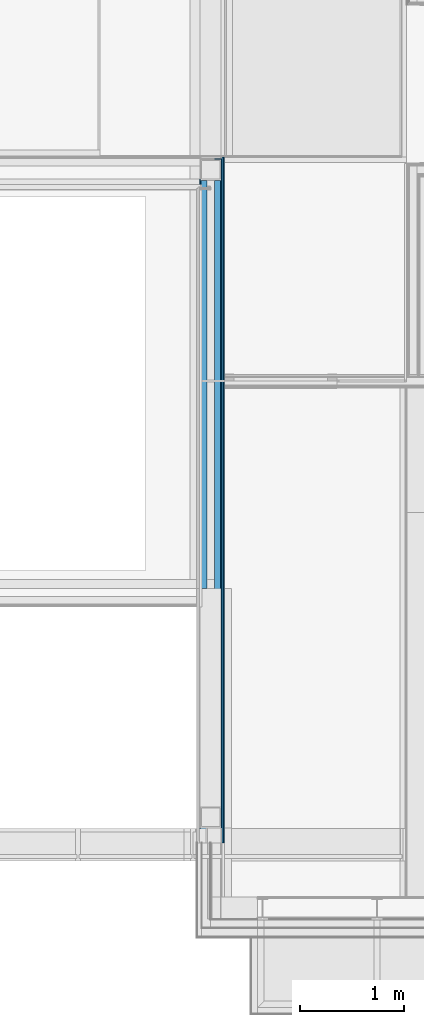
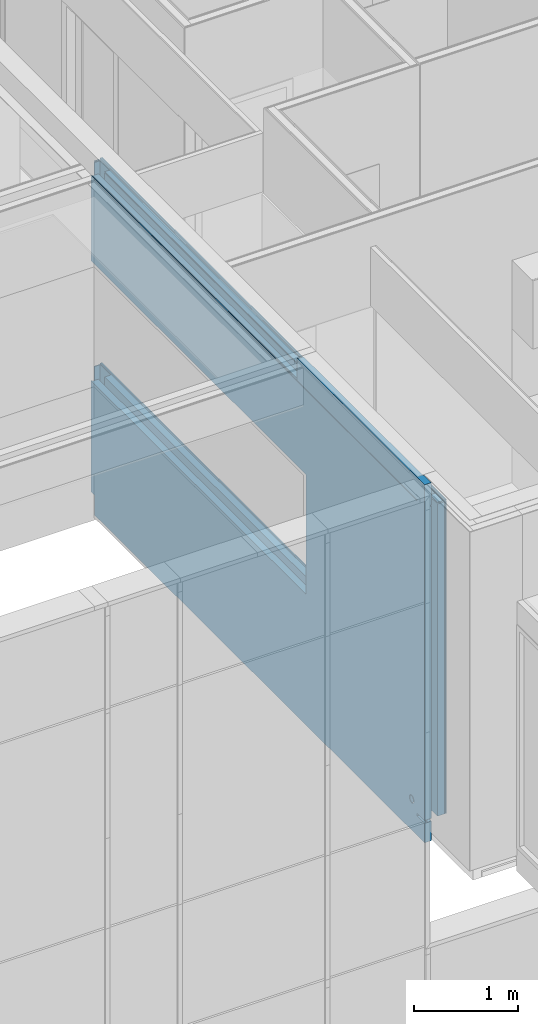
# One storey, part 66 of 137: 4 building element parts, 1 opening, 1 element without a shape of its own.
"""IFC2X3 building model written with IfcOpenShell, lengths in millimetres."""

from ifc_helpers import new_model, entity, si_unit, converted_unit, derived_unit, money_unit, direction, frame, origin_with_axes, place, context, subcontext, project, spatial, faceted_brep, material, type_object, element, aggregate, save


model = new_model("IFC2X3")

# Units and contexts
model_context = context("Model", 3, precision=0.01, world=origin_with_axes(), true_north=direction((0.0, 1.0)))
body_context = subcontext(model_context, "Body", "Model", "MODEL_VIEW")
ifc_project = project(units=[si_unit("LENGTHUNIT", "METRE", prefix="MILLI"), si_unit("AREAUNIT", "SQUARE_METRE"), si_unit("VOLUMEUNIT", "CUBIC_METRE"), converted_unit("PLANEANGLEUNIT", "DEGREE", entity("IfcPlaneAngleMeasure", 0.0174532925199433), si_unit("PLANEANGLEUNIT", "RADIAN"), dimensions=[0, 0, 0, 0, 0, 0, 0]), money_unit("EUR"), converted_unit("TIMEUNIT", "Year", entity("IfcTimeMeasure", 31556926.0), si_unit("TIMEUNIT", "SECOND"), dimensions=[0, 0, 1, 0, 0, 0, 0]), si_unit("MASSUNIT", "GRAM", prefix="KILO"), si_unit("THERMODYNAMICTEMPERATUREUNIT", "DEGREE_CELSIUS"), si_unit("LUMINOUSINTENSITYUNIT", "LUMEN"), si_unit("ENERGYUNIT", "JOULE", prefix="MEGA"), derived_unit("THERMALCONDUCTANCEUNIT", [(si_unit("POWERUNIT", "WATT"), 1), (si_unit("LENGTHUNIT", "METRE"), -1), (si_unit("THERMODYNAMICTEMPERATUREUNIT", "KELVIN"), -1)]), derived_unit("SPECIFICHEATCAPACITYUNIT", [(si_unit("ENERGYUNIT", "JOULE"), 1), (si_unit("MASSUNIT", "GRAM", prefix="KILO"), -1), (si_unit("THERMODYNAMICTEMPERATUREUNIT", "KELVIN"), -1)]), derived_unit("MASSDENSITYUNIT", [(si_unit("MASSUNIT", "GRAM", prefix="KILO"), 1), (si_unit("VOLUMEUNIT", "CUBIC_METRE"), -1)])], contexts=[model_context])

# Site, building, storey
site_placement = place(None, origin_with_axes())
site = spatial("IfcSite", under=ifc_project, at=site_placement, Name="Site", CompositionType="ELEMENT")
building_placement = place(site_placement, origin_with_axes())
building = spatial("IfcBuilding", under=site, at=building_placement, Name="Naam gebouw", CompositionType="ELEMENT")
storey_placement = place(building_placement, frame((0.0, 0.0, 3960.0), z_axis=(0.0, 0.0, 1.0), x_axis=(1.0, 0.0, 0.0)))
storey = spatial("IfcBuildingStorey", under=building, at=storey_placement, Name="1e verdieping", CompositionType="ELEMENT", Elevation=3960.0)

# Proxy, opening, building element parts
building_element_proxy_type = type_object("IfcBuildingElementProxyType", Name="22 Metal stud 270 270", PredefinedType="NOTDEFINED")
proxy_placement = place(storey_placement, frame((24499.99903999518, 4334.757636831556, -330.0000000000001), z_axis=(0.0, 0.0, 1.0), x_axis=(0.0, 1.0, 0.0)))
proxy = element("IfcBuildingElementProxy", 1, at=proxy_placement, inside=storey, type_object=building_element_proxy_type, Name="_Wand-x")
opening_placement = place(proxy_placement, frame((4277.742418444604, 0.0, 1530.0), z_axis=(0.0, 0.0, 1.0), x_axis=(1.0, 0.0, 0.0)))
element("IfcOpeningElement", 2, at=opening_placement, cuts=proxy, Name="_A.01b", context=body_context, shape_type="Brep", body=[
    faceted_brep([(-2007.500055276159, -136.0000000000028, 1400.0), (-2007.500055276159, -136.0000000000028, 0.0), (2332.50005527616, -136.0000000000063, 0.0), (2332.50005527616, -136.0000000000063, 1400.0), (-2007.500055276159, 136.0000000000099, 1400.0), (-2007.500055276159, 136.0000000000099, 0.0), (2006.296351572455, 136.0000000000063, 0.0), (2332.50005527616, -134.999999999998, 0.0), (2332.50005527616, -134.999999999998, 1400.0), (2006.296351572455, 136.0000000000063, 1400.0)], [[[0, 1, 2, 3]], [[4, 5, 1, 0]], [[5, 6, 7, 2, 1]], [[8, 3, 2, 7]], [[9, 4, 0, 3, 8]], [[6, 5, 4, 9]], [[7, 6, 9, 8]]]),
])
ifc_material_1 = material(Name="ALG - LICHTE SCHEIDINGSWAND")
building_element_part_1_placement = place(proxy_placement, origin_with_axes())
building_element_part_1 = element("IfcBuildingElementPart", 3, at=building_element_part_1_placement, material=ifc_material_1, Name="ALG - LICHTE SCHEIDINGSWAND", context=body_context, shape_type="Brep", body=[
    faceted_brep([(2270.242363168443, 35.00000044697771, 1530.0), (2270.242363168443, 35.00000044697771, 2930.0), (6375.242473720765, 35.0000003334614, 2930.0), (6375.242473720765, 35.0000004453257, 3915.000029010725), (345.2423631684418, 35.00000044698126, 3915.000000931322), (345.2423631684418, 35.0000004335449, 230.0), (6375.242473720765, 35.00000002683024, 230.0), (6375.242473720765, 35.00000017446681, 1530.0), (2270.242363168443, 109.9999999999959, 1530.0), (2270.242363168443, 109.9999999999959, 2930.0), (6375.242473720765, 60.23076923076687, 2930.0), (6315.335066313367, 109.9999999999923, 2930.0), (6375.242473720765, 99.99999999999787, 2930.0), (6375.242473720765, 99.99999999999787, 3914.999999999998), (145.2423631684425, 109.9999999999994, 3914.999999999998), (145.2423631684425, 100.0002687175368, 3914.999999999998), (345.2423631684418, 100.0002687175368, 3914.999999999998), (6385.242473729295, 99.99999999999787, 3915.000029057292), (6385.242473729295, 109.9999999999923, 3915.000029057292), (345.2423631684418, 100.0002687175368, 230.0), (145.2423631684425, 100.0002687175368, 230.0), (145.2423701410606, 100.9999999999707, 230.0), (6321.24247372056, 100.9999999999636, 230.0), (6321.24247372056, 109.9999999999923, 229.9999999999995), (6385.242475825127, 109.9999999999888, 229.9999999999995), (6385.242475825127, 99.99999999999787, 230.0), (6375.242473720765, 99.99999999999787, 230.0), (6375.242473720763, 60.23076923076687, 1530.0), (6375.242473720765, 99.99999999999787, 1530.0), (6315.335066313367, 109.9999999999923, 1530.0), (6385.242475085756, 109.9999999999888, 1530.0), (6321.242473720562, 109.9999999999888, 0.0), (0.0, 109.9999999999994, 0.0), (0.0, 109.9999999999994, 230.0), (140.2423631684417, 109.9999999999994, 230.0), (140.2423631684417, 109.9999999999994, 260.0000000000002), (0.0, 109.9999999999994, 259.9999978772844), (0.0, 109.9999999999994, 4185.000048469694), (2445.242363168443, 109.9999999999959, 4185.000047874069), (2445.242363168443, 109.9999999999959, 3930.0), (6285.242473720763, 109.9999999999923, 3930.0), (6385.242473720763, 109.9999999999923, 3930.0), (6385.242473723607, 109.9999999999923, 3925.000029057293), (145.2423631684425, 109.9999999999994, 3924.999999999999), (6385.24247428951, 109.9999999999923, 2930.0), (305.8776321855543, 109.9999999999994, 382.010269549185), (300.622112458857, 109.9999999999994, 389.7649872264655), (300.622112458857, 109.9999999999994, 340.2349947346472), (305.8776321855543, 109.9999999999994, 347.9897124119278), (309.309498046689, 109.9999999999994, 364.9999909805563), (245.2423631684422, 109.9999999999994, 320.5499909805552), (262.2526417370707, 109.9999999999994, 323.9335457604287), (276.6732595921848, 109.9999999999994, 333.5690945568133), (286.3088083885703, 109.9999999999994, 347.9897124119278), (289.6923631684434, 109.9999999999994, 364.9999909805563), (286.3088083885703, 109.9999999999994, 382.010269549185), (276.6732595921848, 109.9999999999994, 396.430887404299), (262.2526417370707, 109.9999999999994, 406.0664362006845), (245.2423631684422, 109.9999999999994, 409.4499909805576), (228.2320845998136, 109.9999999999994, 406.0664362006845), (213.8114667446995, 109.9999999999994, 396.430887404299), (204.175917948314, 109.9999999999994, 382.010269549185), (200.7923631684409, 109.9999999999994, 364.9999909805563), (204.175917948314, 109.9999999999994, 347.9897124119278), (213.8114667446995, 109.9999999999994, 333.5690945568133), (228.2320845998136, 109.9999999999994, 323.9335457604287), (6385.24247428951, 99.99999999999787, 2930.0), (145.2423631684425, 101.0000000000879, 3924.999999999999), (145.2423631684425, 101.0000000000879, 4185.000047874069), (145.2423631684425, 35.00000001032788, 4185.000048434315), (145.2423631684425, 35.00000044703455, 4174.999999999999), (145.2423631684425, 95.00000000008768, 4174.999999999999), (145.2423631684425, 95.00000000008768, 3929.999999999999), (145.2423631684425, 35.00000000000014, 3929.999999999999), (145.2423631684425, 35.00000001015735, 3925.000000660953), (145.2423631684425, 46.00000834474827, 3924.999999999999), (145.2423631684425, 46.00000834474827, 3910.000001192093), (145.2423631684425, 35.00000044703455, 3910.000001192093), (145.2423701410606, 35.00000044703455, 200.0000000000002), (145.2423701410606, 94.99999999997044, 199.9999999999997), (145.2423701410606, 94.99999999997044, 0.0), (145.2423701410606, 100.9999999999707, 0.0), (276.6732595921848, 100.0002687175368, 396.430887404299), (286.3088083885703, 100.0002687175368, 382.010269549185), (289.6923631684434, 100.0002687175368, 364.9999909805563), (286.3088083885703, 100.0002687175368, 347.9897124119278), (276.6732595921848, 100.0002687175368, 333.5690945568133), (262.2526417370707, 100.0002687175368, 323.9335457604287), (245.2423631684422, 100.0002687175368, 320.5499909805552), (228.2320845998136, 100.0002687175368, 323.9335457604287), (213.8114667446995, 100.0002687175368, 333.5690945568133), (204.175917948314, 100.0002687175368, 347.9897124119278), (200.7923631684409, 100.0002687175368, 364.9999909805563), (204.175917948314, 100.0002687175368, 382.010269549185), (213.8114667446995, 100.0002687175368, 396.430887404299), (228.2320845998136, 100.0002687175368, 406.0664362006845), (245.2423631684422, 100.0002687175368, 409.4499909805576), (262.2526417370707, 100.0002687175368, 406.0664362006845), (6321.242473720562, 100.9999999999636, 0.0), (6385.242475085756, 99.99999999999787, 1530.0), (6321.242473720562, 94.99999999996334, 0.0), (6321.242473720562, 34.99999999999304, 0.0), (0.0, 35.00000000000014, 0.0), (0.0, 35.00000000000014, 3910.000001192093), (0.0, 46.00000834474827, 3910.000001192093), (0.0, 46.00000834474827, 3924.999999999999), (0.0, 35.00000000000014, 3924.999999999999), (0.0, 35.00000000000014, 4185.000048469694), (0.0, 88.00000000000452, 259.9999997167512), (0.0, 88.00000000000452, 230.0), (0.0, 35.00000000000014, 230.0), (0.0, 84.00000000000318, 230.0), (0.0, 84.00000000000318, 259.9999997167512), (0.0, 35.00000000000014, 259.9999978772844), (140.2423631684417, 88.00000000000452, 230.0), (140.2423631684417, 88.00000000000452, 260.0000000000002), (2445.242363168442, 101.0000000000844, 4185.000047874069), (2445.242363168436, 100.9999999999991, 3929.999999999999), (6285.242473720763, 100.9999999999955, 3930.0), (6385.242473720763, 100.9999999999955, 3930.0), (6385.242475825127, 100.9999999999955, 3925.000029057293), (305.7307075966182, 109.1336408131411, 382.010269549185), (309.0666313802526, 108.5679063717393, 364.9999909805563), (305.7307075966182, 109.1336408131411, 347.9897124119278), (345.2423631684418, 35.00000000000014, 3929.999999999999), (345.2423631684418, 35.00000002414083, 3925.000001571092), (6375.242473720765, 35.00000044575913, 3925.000029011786), (6375.242473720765, 35.00000044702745, 3929.999999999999), (6285.242473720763, 35.00000044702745, 3930.0), (2445.242363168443, 35.000000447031, 3930.0), (2445.242363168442, 35.00000018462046, 4174.999999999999), (2445.242363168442, 95.00000000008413, 4174.999999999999), (345.2423631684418, 95.00000000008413, 3925.000000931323), (345.2423631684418, 95.00000000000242, 3929.999999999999), (2445.242363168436, 94.99999999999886, 3929.999999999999), (6285.242473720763, 94.99999999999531, 3930.0), (6375.242473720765, 94.99999999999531, 3929.999999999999), (6375.242473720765, 94.99999999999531, 3925.000029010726), (140.2423631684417, 35.00000044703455, 260.0000000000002), (140.2423631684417, 35.00000044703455, 230.0), (6321.24247372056, 35.00000038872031, 200.0000000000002), (6321.24247372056, 94.99999999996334, 199.9999999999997), (140.2423631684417, 84.00000000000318, 230.0), (140.2423631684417, 84.00000000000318, 260.0000000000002)], [[[0, 1, 2, 3, 4, 5, 6, 7]], [[1, 0, 8, 9]], [[10, 2, 1, 9, 11]], [[2, 10, 12, 13, 3]], [[14, 15, 16, 4, 3, 13, 17, 18]], [[19, 5, 4, 16]], [[5, 19, 20, 21, 22, 23, 24, 25, 26, 6]], [[27, 7, 6, 26, 28]], [[0, 7, 27, 29, 8]], [[8, 29, 30, 24, 23, 31, 32, 33, 34, 35, 36, 37, 38, 39, 40, 41, 42, 43, 14, 18, 44, 11, 9], [45, 46, 47, 48, 49], [50, 51, 52, 53, 54, 55, 56, 57, 58, 59, 60, 61, 62, 63, 64, 65]], [[10, 11, 44, 66, 12]], [[12, 66, 17, 13]], [[21, 20, 15, 14, 43, 67, 68, 69, 70, 71, 72, 73, 74, 75, 76, 77, 78, 79, 80, 81]], [[19, 16, 15, 20], [82, 83, 84, 85, 86, 87, 88, 89, 90, 91, 92, 93, 94, 95, 96, 97]], [[66, 44, 18, 17]], [[21, 81, 98, 22]], [[31, 23, 22, 98]], [[30, 99, 25, 24]], [[99, 28, 26, 25]], [[29, 27, 28, 99, 30]], [[98, 81, 80, 100, 101, 102, 32, 31]], [[103, 104, 105, 106, 107, 37, 36, 108, 109, 33, 32, 102, 110, 111, 112, 113]], [[33, 109, 114, 34]], [[35, 34, 114, 115]], [[108, 36, 35, 115]], [[107, 69, 68, 116, 38, 37]], [[39, 38, 116, 117]], [[39, 117, 118, 40]], [[41, 40, 118, 119]], [[41, 119, 120, 42]], [[67, 43, 42, 120]], [[45, 121, 46]], [[122, 123, 47, 46, 121]], [[47, 123, 48]], [[123, 122, 49, 48]], [[122, 121, 45, 49]], [[50, 88, 87, 51]], [[51, 87, 86, 52]], [[52, 86, 85, 53]], [[53, 85, 84, 54]], [[54, 84, 83, 55]], [[55, 83, 82, 56]], [[56, 82, 97, 57]], [[57, 97, 96, 58]], [[58, 96, 95, 59]], [[59, 95, 94, 60]], [[60, 94, 93, 61]], [[61, 93, 92, 62]], [[62, 92, 91, 63]], [[63, 91, 90, 64]], [[64, 90, 89, 65]], [[65, 89, 88, 50]], [[68, 67, 120, 119, 118, 117, 116]], [[73, 124, 125, 126, 127, 128, 129, 130, 70, 69, 107, 106, 74]], [[131, 71, 70, 130]], [[132, 133, 72, 71, 131, 134, 135, 136, 137]], [[73, 72, 133, 124]], [[105, 75, 74, 106]], [[104, 76, 75, 105]], [[103, 77, 76, 104]], [[78, 77, 103, 113, 138, 139, 110, 102, 101, 140]], [[141, 79, 78, 140]], [[80, 79, 141, 100]], [[101, 100, 141, 140]], [[109, 108, 115, 114]], [[110, 139, 142, 111]], [[112, 111, 142, 143]], [[138, 113, 112, 143]], [[132, 125, 124, 133]], [[126, 125, 132, 137]], [[137, 136, 127, 126]], [[128, 127, 136, 135]], [[128, 135, 134, 129]], [[130, 129, 134, 131]], [[139, 138, 143, 142]]]),
    faceted_brep([(273.7401207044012, 100.0002687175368, 387.726194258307), (280.7784855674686, 100.0002687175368, 373.1108790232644), (280.7784855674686, 109.9999999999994, 373.1108790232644), (273.7401207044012, 109.9999999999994, 387.726194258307), (280.7784855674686, 100.0002687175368, 356.8891029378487), (261.0574254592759, 100.0002687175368, 397.8403062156), (245.2423631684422, 100.0002687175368, 401.4499909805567), (229.4273008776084, 100.0002687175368, 397.8403062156), (216.7446056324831, 100.0002687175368, 387.726194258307), (209.7062407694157, 100.0002687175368, 373.1108790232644), (209.7062407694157, 100.0002687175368, 356.8891029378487), (216.7446056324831, 100.0002687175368, 342.2737877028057), (229.4273008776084, 100.0002687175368, 332.1596757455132), (245.2423631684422, 100.0002687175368, 328.5499909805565), (261.0574254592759, 100.0002687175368, 332.1596757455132), (273.7401207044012, 100.0002687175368, 342.2737877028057), (280.7784855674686, 109.9999999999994, 356.8891029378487), (245.2423631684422, 109.9999999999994, 401.4499909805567), (261.0574254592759, 109.9999999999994, 397.8403062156), (273.7401207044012, 109.9999999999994, 342.2737877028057), (261.0574254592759, 109.9999999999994, 332.1596757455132), (245.2423631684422, 109.9999999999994, 328.5499909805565), (229.4273008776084, 109.9999999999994, 332.1596757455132), (216.7446056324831, 109.9999999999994, 342.2737877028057), (209.7062407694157, 109.9999999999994, 356.8891029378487), (209.7062407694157, 109.9999999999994, 373.1108790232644), (216.7446056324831, 109.9999999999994, 387.726194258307), (229.4273008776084, 109.9999999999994, 397.8403062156)], [[[0, 1, 2, 3]], [[4, 1, 0, 5, 6, 7, 8, 9, 10, 11, 12, 13, 14, 15]], [[1, 4, 16, 2]], [[17, 18, 3, 2, 16, 19, 20, 21, 22, 23, 24, 25, 26, 27]], [[5, 0, 3, 18]], [[6, 5, 18, 17]], [[7, 6, 17, 27]], [[8, 7, 27, 26]], [[9, 8, 26, 25]], [[10, 9, 25, 24]], [[11, 10, 24, 23]], [[12, 11, 23, 22]], [[13, 12, 22, 21]], [[14, 13, 21, 20]], [[15, 14, 20, 19]], [[4, 15, 19, 16]]]),
])
building_element_part_2_placement = place(proxy_placement, origin_with_axes())
building_element_part_2 = element("IfcBuildingElementPart", 4, at=building_element_part_2_placement, material=ifc_material_1, Name="ALG - LICHTE SCHEIDINGSWAND", context=body_context, shape_type="Brep", body=[
    faceted_brep([(2270.242363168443, -110.000000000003, 1530.0), (2270.242363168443, -110.000000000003, 2930.0), (6580.149881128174, -110.0000000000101, 2930.0), (6585.242473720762, -110.0000000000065, 2930.0), (6585.242473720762, -110.0000000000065, 3915.000029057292), (145.2423631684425, -109.9999999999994, 3914.999999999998), (145.2423631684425, -109.9999999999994, 3910.000001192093), (0.0, -109.9999999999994, 3910.000001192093), (0.0, -109.9999999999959, 259.9999997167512), (140.2423631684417, -109.9999999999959, 260.0000000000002), (140.2423631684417, -109.9999999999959, 229.9999999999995), (6585.242473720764, -110.0000000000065, 229.9999999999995), (6585.242473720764, -110.0000000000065, 1530.0), (6580.149881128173, -110.0000000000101, 1530.0), (2270.242363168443, -35.00000043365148, 1530.0), (2270.242363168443, -35.00000043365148, 2930.0), (6568.112844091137, -100.0000000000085, 2930.0), (6375.242473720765, -35.0000003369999, 2930.0), (6375.242473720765, -100.000000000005, 2930.0), (6575.242473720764, -100.000000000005, 2930.0), (6575.242473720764, -35.00000033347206, 2930.0), (6585.242473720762, -35.00000033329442, 2930.0), (6585.242473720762, -35.00000044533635, 3915.000029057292), (345.2423631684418, -35.00000044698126, 3915.000000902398), (345.2423631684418, -99.99973128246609, 3914.999999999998), (145.2423631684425, -99.99973128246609, 3914.999999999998), (6575.242473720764, -35.00000044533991, 3915.000029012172), (6575.242473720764, -100.000000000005, 3914.999999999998), (6375.242473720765, -100.000000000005, 3914.999999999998), (6375.242473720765, -35.0000004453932, 3915.000028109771), (145.2423631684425, -99.99973128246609, 3910.000001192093), (145.2423631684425, -35.00000044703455, 3910.000001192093), (0.0, -35.00000000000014, 3910.000001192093), (0.0, -35.00000000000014, 259.9999978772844), (140.2423631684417, -35.00000044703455, 260.0000000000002), (140.2423631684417, -35.00000044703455, 229.9999999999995), (145.2423631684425, -99.99973128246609, 230.0), (345.2423631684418, -99.99973128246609, 230.0), (345.2423631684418, -35.00000043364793, 230.0), (6375.242473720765, -35.00000003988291, 230.0), (6375.242473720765, -100.000000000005, 230.0), (6575.242473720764, -100.000000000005, 230.0), (6575.242473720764, -35.00000002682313, 230.0), (6585.242473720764, -35.00000002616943, 229.9999999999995), (145.2423631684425, -35.0000004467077, 230.0), (6585.242473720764, -35.00000017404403, 1530.0), (6568.112844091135, -100.0000000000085, 1530.0), (6575.242473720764, -35.00000017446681, 1530.0), (6575.242473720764, -100.000000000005, 1530.0), (6375.242473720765, -100.000000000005, 1530.0), (6375.242473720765, -35.00000018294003, 1530.0)], [[[0, 1, 2, 3, 4, 5, 6, 7, 8, 9, 10, 11, 12, 13]], [[1, 0, 14, 15]], [[16, 2, 1, 15, 17, 18]], [[2, 16, 19, 20, 21, 3]], [[3, 21, 22, 4]], [[23, 24, 25, 5, 4, 22, 26, 27, 28, 29]], [[5, 25, 30, 6]], [[6, 30, 31, 32, 7]], [[33, 8, 7, 32]], [[9, 8, 33, 34]], [[10, 9, 34, 35]], [[36, 37, 38, 39, 40, 41, 42, 43, 11, 10, 35, 44]], [[45, 12, 11, 43]], [[46, 13, 12, 45, 47, 48]], [[0, 13, 46, 49, 50, 14]], [[14, 50, 39, 38, 23, 29, 17, 15]], [[18, 17, 29, 28]], [[16, 18, 28, 27, 19]], [[20, 19, 27, 26]], [[21, 20, 26, 22]], [[37, 24, 23, 38]], [[30, 25, 24, 37, 36]], [[44, 31, 30, 36]], [[32, 31, 44, 35, 34, 33]], [[50, 49, 40, 39]], [[49, 46, 48, 41, 40]], [[48, 47, 42, 41]], [[47, 45, 43, 42]]]),
    faceted_brep([(6575.242473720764, -35.00000044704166, 3929.999999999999), (6575.242473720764, -95.00000000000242, 3929.999999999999), (6585.242473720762, -95.00000000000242, 3930.0), (6585.242473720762, -35.00000044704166, 3930.0), (6575.242473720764, -94.99999998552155, 3925.000029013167), (6575.242473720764, -35.00000044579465, 3925.000029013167), (6585.242473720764, -95.00000000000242, 3925.000029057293), (6585.242473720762, -35.00000044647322, 3925.000029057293)], [[[0, 1, 2, 3]], [[4, 1, 0, 5]], [[1, 4, 6, 2]], [[2, 6, 7, 3]], [[5, 0, 3, 7]], [[4, 5, 7, 6]]]),
    faceted_brep([(145.2423631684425, -94.99999067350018, 3925.000000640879), (145.2423631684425, -94.99999068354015, 3929.999999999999), (0.0, -94.99999046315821, 3930.0), (0.0, -94.99999046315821, 3924.999999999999), (145.2423631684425, -35.00000001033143, 3929.999999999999), (145.2423631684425, -35.00000000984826, 3925.000000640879), (0.0, -35.00000000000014, 3930.0), (0.0, -35.00000000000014, 3924.999999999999)], [[[0, 1, 2, 3]], [[4, 1, 0, 5]], [[1, 4, 6, 2]], [[7, 3, 2, 6]], [[5, 0, 3, 7]], [[4, 5, 7, 6]]]),
    faceted_brep([(345.2423631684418, -35.0000000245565, 3929.999999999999), (345.2423631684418, -94.99999098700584, 3929.999999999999), (6285.242473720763, -95.00000000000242, 3930.0), (6285.242473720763, -35.00000044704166, 3930.0), (345.2423631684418, -94.99999096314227, 3925.000001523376), (345.2423631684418, -35.00000002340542, 3925.000001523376), (6375.242473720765, -94.99999969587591, 3925.00002813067), (6375.242473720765, -95.00000000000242, 3929.999999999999), (6375.242473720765, -35.00000044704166, 3929.999999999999), (6375.242473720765, -35.00000043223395, 3925.00002813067)], [[[0, 1, 2, 3]], [[4, 1, 0, 5]], [[1, 4, 6, 7, 2]], [[7, 8, 3, 2]], [[5, 0, 3, 8, 9]], [[4, 5, 9, 6]], [[8, 7, 6, 9]]]),
    faceted_brep([(0.0, -109.9999999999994, 3924.999999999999), (145.2423631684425, -109.9999999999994, 3924.999999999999), (2445.242363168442, -110.000000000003, 3925.000029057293), (6585.242473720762, -110.0000000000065, 3925.000029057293), (6585.242473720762, -110.0000000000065, 3930.0), (6285.242473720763, -110.0000000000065, 3930.0), (0.0, -109.9999999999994, 3930.0), (145.2423631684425, -100.9999999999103, 3924.999999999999), (0.0, -100.9999999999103, 3924.999999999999), (2445.242363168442, -100.9999999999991, 3925.000029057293), (6585.242473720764, -101.0000000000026, 3925.000029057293), (6585.242473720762, -100.9999966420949, 3930.0), (6285.242473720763, -100.9999966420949, 3930.0), (145.2423631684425, -100.9999999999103, 3930.0), (0.0, -100.9999999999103, 3930.0), (2535.24236316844, -100.9999966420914, 3929.999999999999), (2445.242363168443, -100.9999966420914, 3929.999999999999)], [[[0, 1, 2, 3, 4, 5, 6]], [[7, 1, 0, 8]], [[1, 7, 9, 2]], [[10, 3, 2, 9]], [[10, 11, 4, 3]], [[11, 12, 5, 4]], [[13, 14, 6, 5, 12, 15, 16]], [[8, 0, 6, 14]], [[14, 13, 7, 8]], [[7, 13, 16, 9]], [[12, 11, 10, 9, 16, 15]]]),
])
ifc_material_2 = material(Name="Gipsplaat")
building_element_part_3_placement = place(proxy_placement, origin_with_axes())
building_element_part_3 = element("IfcBuildingElementPart", 5, at=building_element_part_3_placement, material=ifc_material_2, Name="Gipsplaat", context=body_context, shape_type="Brep", body=[
    faceted_brep([(2270.242363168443, -135.0000000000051, 1530.0), (2270.242363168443, -135.0000000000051, 2930.0), (6597.742473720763, -135.0000000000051, 2930.0), (6597.742473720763, -135.0000000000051, 3915.000029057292), (145.2423631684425, -135.0000000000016, 3914.999999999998), (145.2423631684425, -135.0000000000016, 3910.000001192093), (0.0, -134.999999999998, 3910.000001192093), (0.0, -134.999999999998, 259.9999997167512), (140.2423631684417, -134.999999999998, 260.0000000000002), (140.2423631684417, -134.999999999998, 229.9999999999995), (6597.742473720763, -135.0000000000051, 229.9999999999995), (6597.742473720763, -135.0000000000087, 1530.0), (2270.242363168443, -122.5000000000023, 1530.0), (2270.242363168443, -122.5000000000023, 2930.0), (6597.742473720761, -124.6153846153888, 2930.0), (6595.19617742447, -122.5000000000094, 2930.0), (6597.742473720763, -122.5000000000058, 2930.0), (6597.742473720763, -122.5000000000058, 3915.000029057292), (145.2423631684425, -122.4999999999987, 3914.999999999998), (145.2423631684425, -122.4999999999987, 3910.000001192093), (0.0, -122.4999999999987, 3910.000001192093), (0.0, -122.4999999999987, 259.9999978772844), (140.2423631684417, -122.4999999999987, 260.0000000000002), (140.2423631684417, -122.4999999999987, 229.9999999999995), (6597.742473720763, -122.5000000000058, 229.9999999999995), (6597.742473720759, -124.6153846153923, 1530.0), (6597.742473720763, -122.5000000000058, 1530.0), (6595.196177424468, -122.5000000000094, 1530.0)], [[[0, 1, 2, 3, 4, 5, 6, 7, 8, 9, 10, 11]], [[1, 0, 12, 13]], [[14, 2, 1, 13, 15]], [[2, 14, 16, 17, 3]], [[17, 18, 4, 3]], [[19, 5, 4, 18]], [[20, 6, 5, 19]], [[7, 6, 20, 21]], [[7, 21, 22, 8]], [[8, 22, 23, 9]], [[9, 23, 24, 10]], [[25, 11, 10, 24, 26]], [[0, 11, 25, 27, 12]], [[12, 27, 26, 24, 23, 22, 21, 20, 19, 18, 17, 16, 15, 13]], [[14, 15, 16]], [[27, 25, 26]]]),
    faceted_brep([(0.0, -134.999999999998, 3924.999999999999), (145.2423631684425, -135.0000000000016, 3924.999999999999), (2445.242363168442, -135.0000000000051, 3925.000029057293), (6597.742473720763, -135.0000000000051, 3925.000029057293), (6597.742473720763, -135.0000000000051, 3930.0), (6285.242473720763, -135.0000000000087, 3930.0), (0.0, -134.999999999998, 3930.0), (145.2423631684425, -122.4999999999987, 3924.999999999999), (0.0, -122.4999999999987, 3924.999999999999), (2445.242363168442, -122.5000000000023, 3925.000029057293), (6597.742473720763, -122.5000000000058, 3925.000029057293), (6597.742473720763, -122.5000000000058, 3930.0), (6285.242473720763, -122.5000000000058, 3930.0), (0.0, -122.4999999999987, 3930.0)], [[[0, 1, 2, 3, 4, 5, 6]], [[7, 1, 0, 8]], [[1, 7, 9, 2]], [[10, 3, 2, 9]], [[3, 10, 11, 4]], [[11, 12, 5, 4]], [[6, 5, 12, 13]], [[8, 0, 6, 13]], [[7, 8, 13, 12, 11, 10, 9]]]),
])
building_element_part_4_placement = place(proxy_placement, origin_with_axes())
building_element_part_4 = element("IfcBuildingElementPart", 6, at=building_element_part_4_placement, material=ifc_material_2, Name="Gipsplaat", context=body_context, shape_type="Brep", body=[
    faceted_brep([(2270.242363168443, -122.5000000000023, 1530.0), (2270.242363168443, -122.5000000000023, 2930.0), (6595.19617742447, -122.5000000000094, 2930.0), (6597.742473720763, -122.5000000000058, 2930.0), (6597.742473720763, -122.5000000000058, 3915.000029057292), (145.2423631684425, -122.4999999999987, 3914.999999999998), (145.2423631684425, -122.4999999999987, 3910.000001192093), (0.0, -122.4999999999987, 3910.000001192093), (0.0, -122.4999999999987, 259.9999978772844), (140.2423631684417, -122.4999999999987, 260.0000000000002), (140.2423631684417, -122.4999999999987, 229.9999999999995), (6597.742473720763, -122.5000000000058, 229.9999999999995), (6597.742473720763, -122.5000000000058, 1530.0), (6595.196177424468, -122.5000000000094, 1530.0), (2270.242363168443, -109.9999999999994, 1530.0), (2270.242363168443, -109.9999999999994, 2930.0), (6580.149881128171, -110.0000000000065, 2930.0), (6597.742473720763, -110.0000000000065, 2930.0), (6597.742473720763, -110.0000000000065, 3915.000029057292), (145.2423631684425, -109.9999999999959, 3914.999999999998), (145.2423631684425, -109.9999999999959, 3910.000001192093), (0.0, -109.9999999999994, 3910.000001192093), (0.0, -109.9999999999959, 259.9999997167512), (140.2423631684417, -109.9999999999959, 260.0000000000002), (140.2423631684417, -109.9999999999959, 229.9999999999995), (6597.742473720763, -110.0000000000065, 229.9999999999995), (6597.742473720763, -110.0000000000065, 1530.0), (6580.149881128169, -110.0000000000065, 1530.0)], [[[0, 1, 2, 3, 4, 5, 6, 7, 8, 9, 10, 11, 12, 13]], [[1, 0, 14, 15]], [[16, 2, 1, 15]], [[2, 16, 17, 3]], [[3, 17, 18, 4]], [[18, 19, 5, 4]], [[20, 6, 5, 19]], [[21, 7, 6, 20]], [[8, 7, 21, 22]], [[8, 22, 23, 9]], [[9, 23, 24, 10]], [[10, 24, 25, 11]], [[26, 12, 11, 25]], [[27, 13, 12, 26]], [[0, 13, 27, 14]], [[14, 27, 26, 25, 24, 23, 22, 21, 20, 19, 18, 17, 16, 15]]]),
    faceted_brep([(0.0, -122.4999999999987, 3924.999999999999), (145.2423631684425, -122.4999999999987, 3924.999999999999), (2445.242363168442, -122.5000000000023, 3925.000029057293), (6597.742473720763, -122.5000000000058, 3925.000029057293), (6597.742473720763, -122.5000000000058, 3930.0), (6285.242473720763, -122.5000000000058, 3930.0), (0.0, -122.4999999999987, 3930.0), (145.2423631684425, -109.9999999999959, 3924.999999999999), (0.0, -109.9999999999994, 3924.999999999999), (2445.242363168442, -109.9999999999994, 3925.000029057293), (6597.742473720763, -110.0000000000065, 3925.000029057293), (6597.742473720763, -110.0000000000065, 3930.0), (6285.242473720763, -110.0000000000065, 3930.0), (0.0, -109.9999999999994, 3930.0)], [[[0, 1, 2, 3, 4, 5, 6]], [[7, 1, 0, 8]], [[1, 7, 9, 2]], [[10, 3, 2, 9]], [[3, 10, 11, 4]], [[11, 12, 5, 4]], [[6, 5, 12, 13]], [[8, 0, 6, 13]], [[7, 8, 13, 12, 11, 10, 9]]]),
])
aggregate(proxy, [building_element_part_1, building_element_part_2, building_element_part_3, building_element_part_4])

save(model, "model.ifc")
